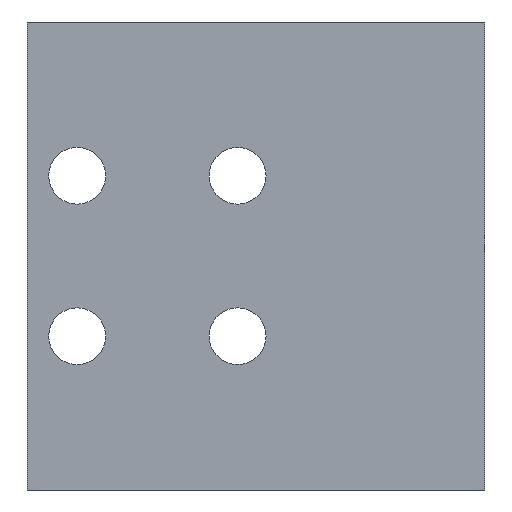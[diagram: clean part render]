
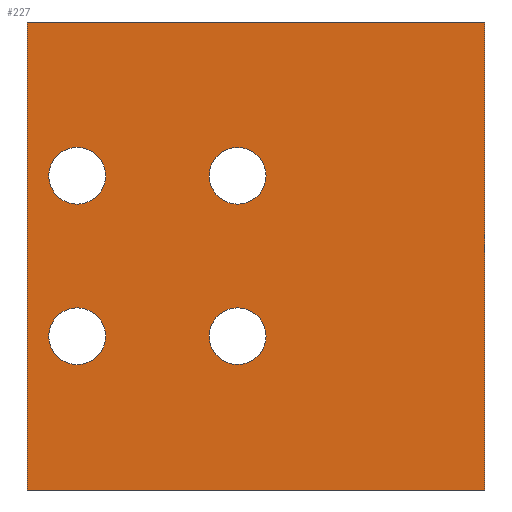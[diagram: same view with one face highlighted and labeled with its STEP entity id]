
A CAD part, front view. The second image highlights one B-rep face of the part: STEP entity #227.
In plain terms, the highlighted planar face has unit normal (0, -1, 0).
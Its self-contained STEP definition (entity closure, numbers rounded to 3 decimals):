
#99 = VERTEX_POINT( '', #265 );
#101 = VERTEX_POINT( '', #267 );
#103 = EDGE_CURVE( '', #101, #111, #269, .T. );
#111 = VERTEX_POINT( '', #277 );
#117 = EDGE_CURVE( '', #187, #183, #284, .T. );
#123 = EDGE_CURVE( '', #203, #183, #291, .T. );
#135 = VERTEX_POINT( '', #304 );
#149 = EDGE_CURVE( '', #199, #153, #320, .T. );
#153 = VERTEX_POINT( '', #325 );
#155 = EDGE_CURVE( '', #135, #203, #327, .T. );
#173 = EDGE_CURVE( '', #205, #185, #346, .T. );
#175 = EDGE_CURVE( '', #153, #199, #348, .T. );
#181 = VERTEX_POINT( '', #359 );
#183 = VERTEX_POINT( '', #361 );
#185 = VERTEX_POINT( '', #363 );
#187 = VERTEX_POINT( '', #365 );
#189 = EDGE_CURVE( '', #135, #187, #367, .T. );
#193 = EDGE_CURVE( '', #185, #205, #371, .T. );
#199 = VERTEX_POINT( '', #377 );
#201 = EDGE_CURVE( '', #181, #99, #379, .T. );
#203 = VERTEX_POINT( '', #381 );
#205 = VERTEX_POINT( '', #383 );
#213 = EDGE_CURVE( '', #111, #101, #391, .T. );
#227 = ADVANCED_FACE( '', ( #408, #409, #410, #411, #412 ), #413, .T. );
#239 = EDGE_CURVE( '', #99, #181, #426, .T. );
#265 = CARTESIAN_POINT( '', ( 1.5, 0., -12. ) );
#267 = CARTESIAN_POINT( '', ( -7., 0., 12. ) );
#269 = CIRCLE( '', #448, 4.25 );
#277 = CARTESIAN_POINT( '', ( 1.5, 0., 12. ) );
#284 = LINE( '', #468, #469 );
#291 = LINE( '', #478, #479 );
#304 = CARTESIAN_POINT( '', ( 34.25, 0., 35. ) );
#320 = CIRCLE( '', #517, 4.25 );
#325 = CARTESIAN_POINT( '', ( -31., 0., 12. ) );
#327 = LINE( '', #525, #526 );
#346 = CIRCLE( '', #552, 4.25 );
#348 = CIRCLE( '', #555, 4.25 );
#359 = CARTESIAN_POINT( '', ( -7., 0., -12. ) );
#361 = CARTESIAN_POINT( '', ( -34.25, 0., -35. ) );
#363 = CARTESIAN_POINT( '', ( -22.5, 0., -12. ) );
#365 = CARTESIAN_POINT( '', ( -34.25, 0., 35. ) );
#367 = LINE( '', #576, #577 );
#371 = CIRCLE( '', #582, 4.25 );
#377 = CARTESIAN_POINT( '', ( -22.5, 0., 12. ) );
#379 = CIRCLE( '', #593, 4.25 );
#381 = CARTESIAN_POINT( '', ( 34.25, 0., -35. ) );
#383 = CARTESIAN_POINT( '', ( -31., 0., -12. ) );
#391 = CIRCLE( '', #612, 4.25 );
#408 = FACE_BOUND( '', #630, .T. );
#409 = FACE_BOUND( '', #631, .T. );
#410 = FACE_BOUND( '', #632, .T. );
#411 = FACE_BOUND( '', #633, .T. );
#412 = FACE_OUTER_BOUND( '', #634, .T. );
#413 = PLANE( '', #635 );
#426 = CIRCLE( '', #655, 4.25 );
#448 = AXIS2_PLACEMENT_3D( '', #670, #671, #672 );
#468 = CARTESIAN_POINT( '', ( -34.25, 0., 35. ) );
#469 = VECTOR( '', #683, 1. );
#478 = CARTESIAN_POINT( '', ( 34.25, 0., -35. ) );
#479 = VECTOR( '', #695, 1. );
#517 = AXIS2_PLACEMENT_3D( '', #729, #730, #731 );
#525 = CARTESIAN_POINT( '', ( 34.25, 0., 35. ) );
#526 = VECTOR( '', #740, 1. );
#552 = AXIS2_PLACEMENT_3D( '', #756, #757, #758 );
#555 = AXIS2_PLACEMENT_3D( '', #759, #760, #761 );
#576 = CARTESIAN_POINT( '', ( 34.25, 0., 35. ) );
#577 = VECTOR( '', #781, 1. );
#582 = AXIS2_PLACEMENT_3D( '', #782, #783, #784 );
#593 = AXIS2_PLACEMENT_3D( '', #786, #787, #788 );
#612 = AXIS2_PLACEMENT_3D( '', #792, #793, #794 );
#630 = EDGE_LOOP( '', ( #823, #824 ) );
#631 = EDGE_LOOP( '', ( #825, #826 ) );
#632 = EDGE_LOOP( '', ( #827, #828 ) );
#633 = EDGE_LOOP( '', ( #829, #830 ) );
#634 = EDGE_LOOP( '', ( #831, #832, #833, #834 ) );
#635 = AXIS2_PLACEMENT_3D( '', #835, #836, #837 );
#655 = AXIS2_PLACEMENT_3D( '', #849, #850, #851 );
#670 = CARTESIAN_POINT( '', ( -2.75, 0., 12. ) );
#671 = DIRECTION( '', ( 0., 1., 0. ) );
#672 = DIRECTION( '', ( -1., 0., 0. ) );
#683 = DIRECTION( '', ( 0., 0., -1. ) );
#695 = DIRECTION( '', ( -1., 0., 0. ) );
#729 = CARTESIAN_POINT( '', ( -26.75, 0., 12. ) );
#730 = DIRECTION( '', ( 0., 1., 0. ) );
#731 = DIRECTION( '', ( -1., 0., 0. ) );
#740 = DIRECTION( '', ( 0., 0., -1. ) );
#756 = CARTESIAN_POINT( '', ( -26.75, 0., -12. ) );
#757 = DIRECTION( '', ( 0., 1., 0. ) );
#758 = DIRECTION( '', ( -1., 0., 0. ) );
#759 = CARTESIAN_POINT( '', ( -26.75, 0., 12. ) );
#760 = DIRECTION( '', ( 0., 1., 0. ) );
#761 = DIRECTION( '', ( -1., 0., 0. ) );
#781 = DIRECTION( '', ( -1., 0., 0. ) );
#782 = CARTESIAN_POINT( '', ( -26.75, 0., -12. ) );
#783 = DIRECTION( '', ( 0., 1., 0. ) );
#784 = DIRECTION( '', ( -1., 0., 0. ) );
#786 = CARTESIAN_POINT( '', ( -2.75, 0., -12. ) );
#787 = DIRECTION( '', ( 0., 1., 0. ) );
#788 = DIRECTION( '', ( -1., 0., 0. ) );
#792 = CARTESIAN_POINT( '', ( -2.75, 0., 12. ) );
#793 = DIRECTION( '', ( 0., 1., 0. ) );
#794 = DIRECTION( '', ( -1., 0., 0. ) );
#823 = ORIENTED_EDGE( '', *, *, #213, .T. );
#824 = ORIENTED_EDGE( '', *, *, #103, .T. );
#825 = ORIENTED_EDGE( '', *, *, #149, .T. );
#826 = ORIENTED_EDGE( '', *, *, #175, .T. );
#827 = ORIENTED_EDGE( '', *, *, #239, .T. );
#828 = ORIENTED_EDGE( '', *, *, #201, .T. );
#829 = ORIENTED_EDGE( '', *, *, #193, .T. );
#830 = ORIENTED_EDGE( '', *, *, #173, .T. );
#831 = ORIENTED_EDGE( '', *, *, #117, .T. );
#832 = ORIENTED_EDGE( '', *, *, #123, .F. );
#833 = ORIENTED_EDGE( '', *, *, #155, .F. );
#834 = ORIENTED_EDGE( '', *, *, #189, .T. );
#835 = CARTESIAN_POINT( '', ( 34.25, 0., 35. ) );
#836 = DIRECTION( '', ( 0., -1., 0. ) );
#837 = DIRECTION( '', ( 0., 0., 1. ) );
#849 = CARTESIAN_POINT( '', ( -2.75, 0., -12. ) );
#850 = DIRECTION( '', ( 0., 1., 0. ) );
#851 = DIRECTION( '', ( -1., 0., 0. ) );
